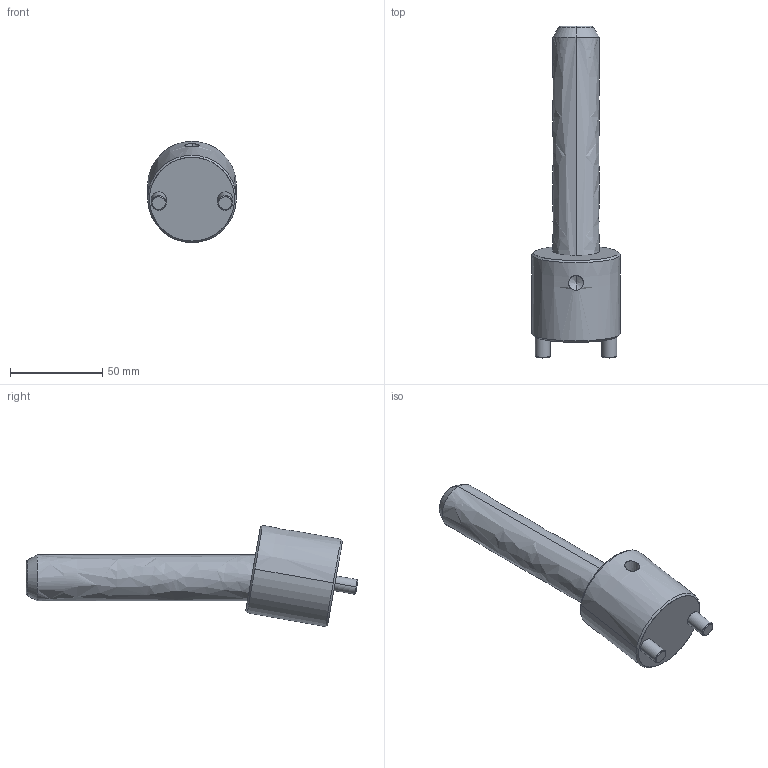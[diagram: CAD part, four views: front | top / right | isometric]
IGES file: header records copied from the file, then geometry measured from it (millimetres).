
Start section: START RECORD GO HERE.
Global section: file name: CI1025125.igs; native system: DASSAULT SYSTEMES CATIA V5 R20 - www.3ds.com; preprocessor: CATIA Version 5 Release 20 ; author: r.borello; organization: CFTORINO; date: 20190621.155656; units: millimetre
Bounding box: 48 x 179.61 x 54.74 mm (x, y, z)
Surface area: 27420.2 mm2 (no closed solid volume)
Topology: 0 solids, 0 shells, 39 faces, 162 edges, 160 vertices
Faces by surface type: revolution 32, plane 7
